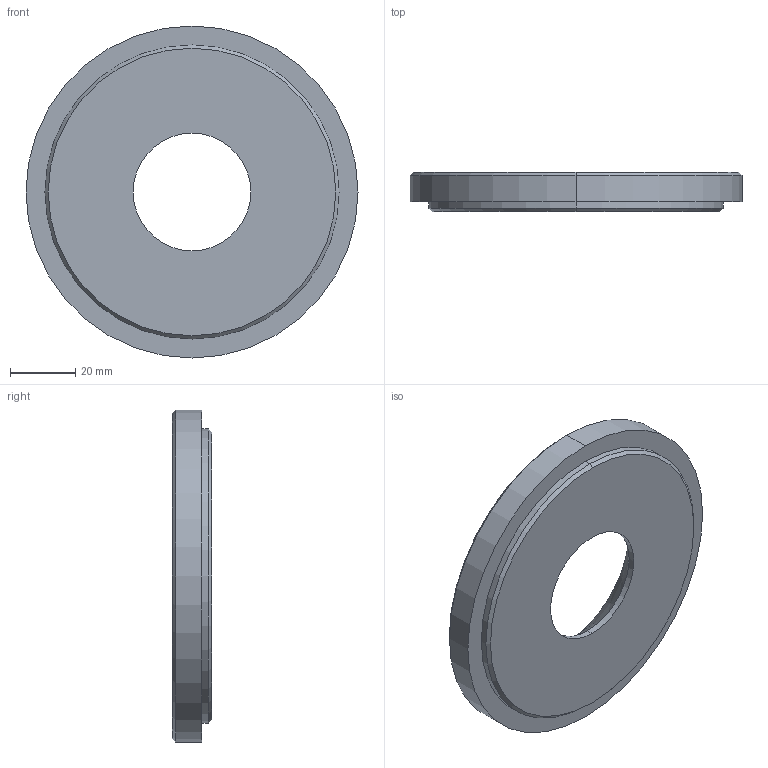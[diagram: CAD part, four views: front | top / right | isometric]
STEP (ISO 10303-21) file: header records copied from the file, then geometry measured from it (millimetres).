
FILE_DESCRIPTION (( 'STEP AP214' ), '1' );
FILE_NAME ('BRLRS-101,6x36x12.STEP', '2020-02-05T09:33:11', ( 'August' ), ( '' ), 'SwSTEP 2.0', 'SolidWorks 2018', '' );
FILE_SCHEMA (( 'AUTOMOTIVE_DESIGN' ));
Length unit declared in the file: millimetre
Products named in the file (1): BRLRS-101,6x36x12
Bounding box: 101.6 x 12 x 101.6 mm (x, y, z)
Volume: 72835.6 mm3; surface area: 18369.4 mm2
Topology: 1 solids, 1 shells, 15 faces, 30 edges, 18 vertices
Faces by surface type: cone 6, cylinder 6, plane 3
Entity records: 432 total; most frequent: DIRECTION 80, CARTESIAN_POINT 64, ORIENTED_EDGE 60, AXIS2_PLACEMENT_3D 34, EDGE_CURVE 30, CIRCLE 18, EDGE_LOOP 18, VERTEX_POINT 18
